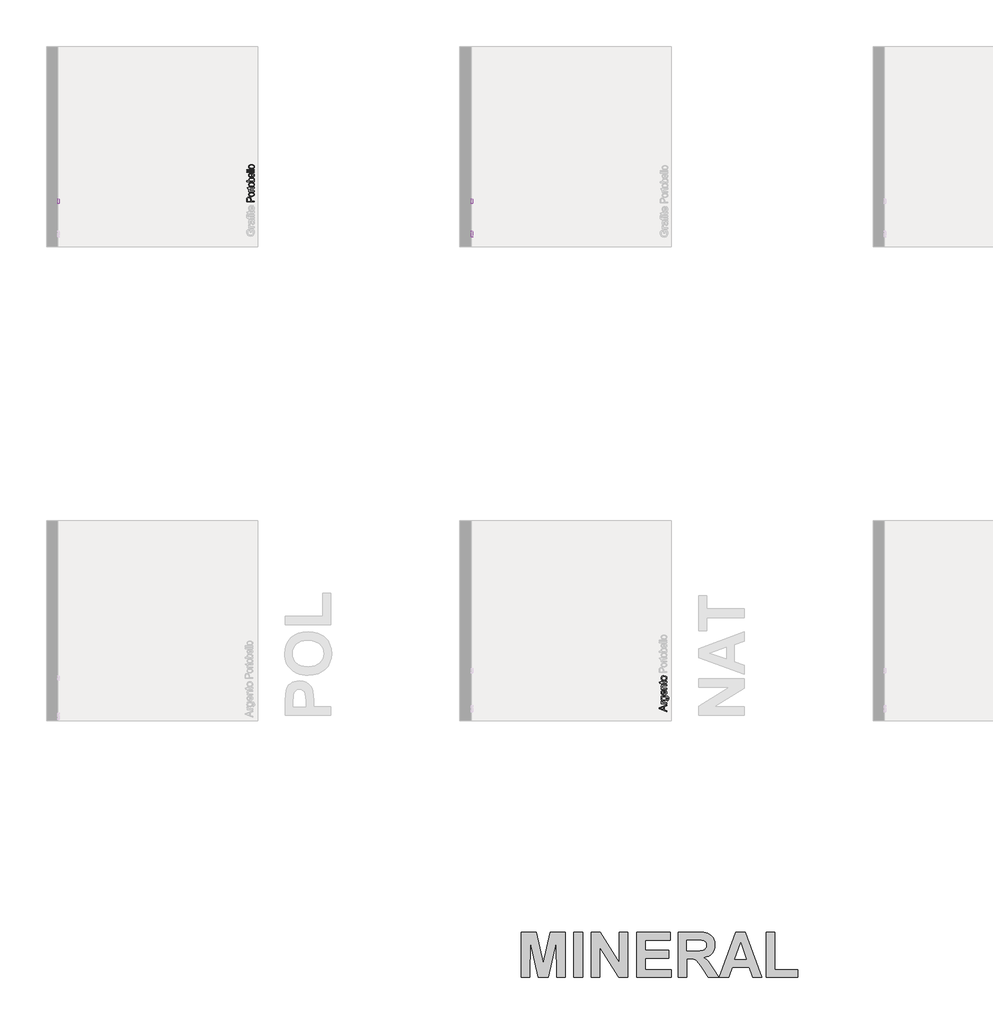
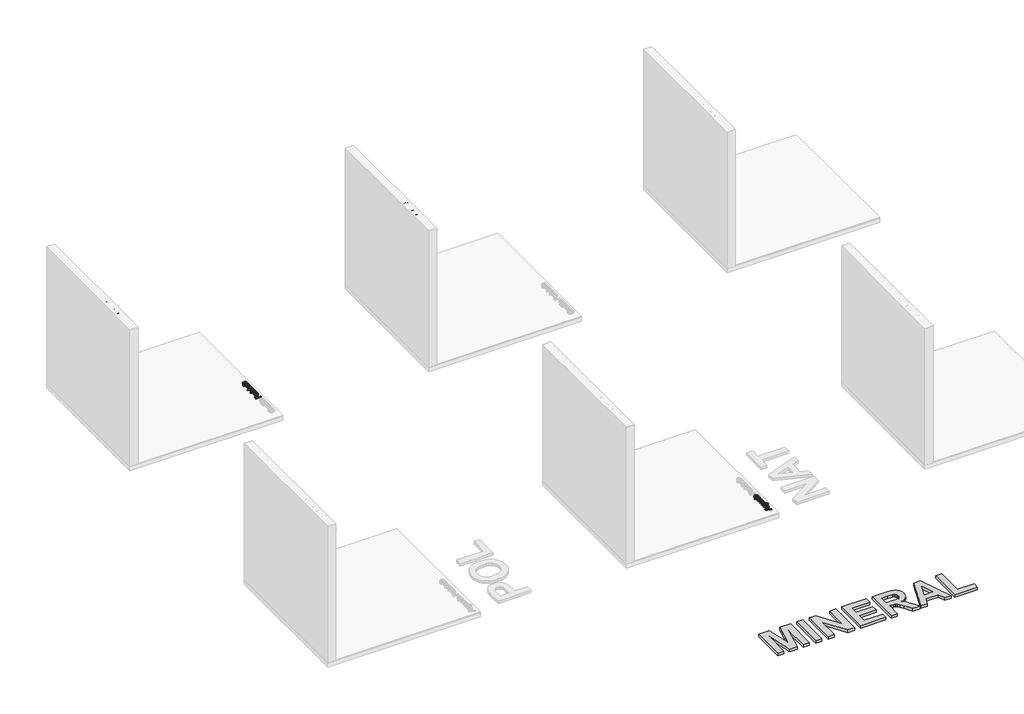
# One storey, part 3 of 14: 6 proxies.
"""IFC4 building model written with IfcOpenShell, lengths in millimetres."""

from ifc_helpers import new_model, si_unit, frame, origin, origin_with_axes, place, context, project, spatial, polyline, outline, extrude, element, save

model = new_model("IFC4")

# Units and contexts
model_context = context("Model", 3, world=origin())
ifc_project = project(units=[si_unit("LENGTHUNIT", "METRE", prefix="MILLI")], contexts=[model_context])

# Site, building, storey
site = spatial("IfcSite", under=ifc_project)
building = spatial("IfcBuilding", under=site)
storey = spatial("IfcBuildingStorey", under=building, Name="PORTOBELLO - SHOWROOM", Elevation=0.0)

# Proxies
placement = place(None, origin())
element("IfcBuildingElementProxy", 1, Name="10mm Arial", ObjectType="10mm Arial", at=placement, inside=storey, context=model_context, shape_type="SweptSolid", body=[
    extrude(outline(polyline([(192333.320762, -9099.9883911), (192232.8644518, -9059.8892536), (192232.8644518, -9049.1961503), (192333.320762, -9009.0970128), (192333.320762, -9022.3652901), (192301.9281651, -9033.8677338), (192301.9281651, -9075.2421955), (192333.320762, -9086.7201138), (192333.320762, -9099.9883911)]), holes=[polyline([(192289.3711263, -9070.6314078), (192289.3711263, -9038.453996), (192264.6739817, -9047.5038931), (192245.4214906, -9054.5427019), (192262.5157406, -9060.7966958), (192289.3711263, -9070.6314078)])]), frame((0.0, 0.0, 17.0), z_axis=(0.0, 0.0, 1.0), x_axis=(1.0, 0.0, 0.0)), (0.0, 0.0, 1.0), 20.0),
    extrude(outline(polyline([(192333.320762, -8997.2512125), (192259.5481592, -8997.2512125), (192259.5481592, -8986.2638036), (192270.4619917, -8986.2638036), (192260.4065505, -8978.4647053), (192257.9785294, -8970.6165561), (192261.8535531, -8958.0104664), (192273.1107421, -8962.2043211), (192270.5355681, -8971.033489), (192273.0126402, -8978.1336115), (192279.8797708, -8982.6585601), (192294.5459997, -8984.6941738), (192333.320762, -8984.6941738), (192333.320762, -8997.2512125)])), frame((0.0, 0.0, 17.0), z_axis=(0.0, 0.0, 1.0), x_axis=(1.0, 0.0, 0.0)), (0.0, 0.0, 1.0), 20.0),
    extrude(outline(polyline([(192339.5992814, -8953.3015769), (192341.1689112, -8940.7445381), (192347.7907871, -8936.6733107), (192350.5866903, -8924.4841539), (192347.4229051, -8911.6328095), (192338.5446863, -8905.5014429), (192323.9029829, -8904.6430516), (192330.9663172, -8913.4844822), (192333.320762, -8924.2634247), (192330.5800411, -8937.2098052), (192322.3578785, -8946.8636419), (192310.3036118, -8952.8693155), (192296.0665786, -8954.8712067), (192276.6056211, -8951.2782259), (192262.8345717, -8940.8794281), (192257.9785294, -8924.8765614), (192260.7253816, -8913.6745546), (192268.9659383, -8904.6430516), (192259.5481592, -8904.6430516), (192259.5481592, -8892.0860129), (192323.2407953, -8892.0860129), (192347.6313716, -8895.5195781), (192358.9743998, -8906.3966225), (192363.1437291, -8924.7294086), (192361.6752668, -8936.4127276), (192357.2698799, -8945.6128432), (192349.9153056, -8951.5142835), (192339.5992814, -8953.3015769)]), holes=[polyline([(192295.2081873, -8942.3141679), (192306.7259594, -8940.9744643), (192314.6446194, -8936.9553535), (192319.2339473, -8930.9128918), (192320.7637232, -8923.5031352), (192319.2431443, -8916.148561), (192314.6814076, -8910.0754424), (192306.8639152, -8906.0011493), (192295.5760693, -8904.6430516), (192284.6898279, -8906.0410032), (192276.8508757, -8910.234858), (192272.114395, -8916.3968814), (192270.5355681, -8923.699339), (192272.0898696, -8930.8699722), (192276.7527739, -8936.8817771), (192284.4752301, -8940.9560702), (192295.2081873, -8942.3141679)])]), frame((0.0, 0.0, 17.0), z_axis=(0.0, 0.0, 1.0), x_axis=(1.0, 0.0, 0.0)), (0.0, 0.0, 1.0), 20.0),
    extrude(outline(polyline([(192311.3459441, -8821.5998226), (192312.915574, -8809.2880385), (192322.1923316, -8813.7240822), (192329.1269072, -8820.8027449), (192333.4495207, -8830.3646111), (192334.8903918, -8842.2502652), (192332.4041227, -8856.9839391), (192324.9453152, -8868.320836), (192312.9983474, -8875.5497172), (192297.0475973, -8877.9593442), (192280.5603525, -8875.5251917), (192268.2301743, -8868.2227341), (192260.5414406, -8857.0391214), (192257.9785294, -8842.9615038), (192260.5353092, -8829.3222788), (192268.2056488, -8818.4237747), (192280.5113016, -8811.2776669), (192296.9740209, -8808.895631), (192300.3585352, -8808.9692074), (192300.3585352, -8865.4023055), (192309.7579202, -8863.228736), (192316.6679703, -8858.1795556), (192320.9170074, -8850.8924264), (192322.3333531, -8842.0050106), (192319.7091282, -8829.6932265), (192311.3459441, -8821.5998226)]), holes=[polyline([(192287.8014964, -8865.4023055), (192287.8014964, -8821.4526698), (192276.4216801, -8826.4803904), (192272.0070961, -8833.8012421), (192270.5355681, -8843.0105547), (192275.2321949, -8858.4738612), (192280.7228337, -8863.3391006), (192287.8014964, -8865.4023055)])]), frame((0.0, 0.0, 17.0), z_axis=(0.0, 0.0, 1.0), x_axis=(1.0, 0.0, 0.0)), (0.0, 0.0, 1.0), 20.0),
    extrude(outline(polyline([(192333.320762, -8796.3385922), (192259.5481592, -8796.3385922), (192259.5481592, -8783.7815535), (192269.8488551, -8783.7815535), (192260.9461108, -8774.1798334), (192257.9785294, -8761.0709716), (192260.3697623, -8749.2129087), (192266.6482817, -8741.1195048), (192275.8821198, -8737.3548457), (192288.0222256, -8736.6926581), (192333.320762, -8736.6926581), (192333.320762, -8749.2496969), (192289.7144828, -8749.2496969), (192278.6044466, -8750.6966994), (192272.7305974, -8755.8102591), (192270.5355681, -8764.4309605), (192275.4651869, -8778.0548571), (192282.6082289, -8782.3498794), (192294.1781177, -8783.7815535), (192333.320762, -8783.7815535), (192333.320762, -8796.3385922)])), frame((0.0, 0.0, 17.0), z_axis=(0.0, 0.0, 1.0), x_axis=(1.0, 0.0, 0.0)), (0.0, 0.0, 1.0), 20.0),
    extrude(outline(polyline([(192322.8483879, -8692.7430224), (192333.688644, -8691.1733926), (192334.8903918, -8700.5666462), (192332.8057272, -8711.0880712), (192327.3365482, -8716.336521), (192313.0872522, -8717.8570999), (192272.105198, -8717.8570999), (192272.105198, -8727.274879), (192259.5481592, -8727.274879), (192259.5481592, -8717.8570999), (192241.6200433, -8717.8570999), (192234.2378779, -8705.3000612), (192259.5481592, -8705.3000612), (192259.5481592, -8692.7430224), (192272.105198, -8692.7430224), (192272.105198, -8705.3000612), (192312.7193703, -8705.3000612), (192319.1940934, -8704.6378736), (192321.4872245, -8702.4918953), (192322.3333531, -8698.2122014), (192322.8483879, -8692.7430224)])), frame((0.0, 0.0, 17.0), z_axis=(0.0, 0.0, 1.0), x_axis=(1.0, 0.0, 0.0)), (0.0, 0.0, 1.0), 20.0),
    extrude(outline(polyline([(192296.4344606, -8683.3252433), (192278.6473661, -8680.6090479), (192266.1455097, -8672.4604617), (192260.0202744, -8662.3927578), (192257.9785294, -8650.3384911), (192260.4647985, -8637.1468559), (192267.923606, -8626.6101024), (192279.7663405, -8619.7031179), (192295.404391, -8617.4007898), (192317.7470909, -8621.4720172), (192330.3899688, -8633.3300802), (192334.8903918, -8650.3384911), (192332.4133197, -8663.6895418), (192324.9821034, -8674.2140326), (192312.8910485, -8681.0474406), (192296.4344606, -8683.3252433)]), holes=[polyline([(192296.4099351, -8670.7682046), (192307.7744231, -8669.3150707), (192315.8708927, -8664.955669), (192320.717738, -8658.3951068), (192322.3333531, -8650.3384911), (192320.7085409, -8642.3186636), (192315.8341045, -8635.7703641), (192307.630336, -8631.4109624), (192296.0175277, -8629.9578286), (192284.9841335, -8631.4201595), (192276.9980285, -8635.8071523), (192272.1511832, -8642.3646488), (192270.5355681, -8650.3384911), (192272.1450519, -8658.3951068), (192276.9735031, -8664.955669), (192285.0515785, -8669.3150707), (192296.4099351, -8670.7682046)])]), frame((0.0, 0.0, 17.0), z_axis=(0.0, 0.0, 1.0), x_axis=(1.0, 0.0, 0.0)), (0.0, 0.0, 1.0), 20.0),
])
element("IfcBuildingElementProxy", 2, Name="10mm Arial", ObjectType="10mm Arial", at=placement, inside=storey, context=model_context, shape_type="SweptSolid", body=[
    extrude(outline(polyline([(-2650.8558235, 2597.4669111), (-2650.8558235, 2610.0239499), (-2610.0454475, 2610.0239499), (-2610.0454475, 2572.4754609), (-2630.1931181, 2560.6296606), (-2651.4934856, 2556.6565351), (-2665.5803003, 2558.235362), (-2678.312083, 2562.9718427), (-2688.8886904, 2570.7004303), (-2696.5099791, 2581.2555778), (-2701.1177011, 2593.9168498), (-2702.6536084, 2607.9638107), (-2701.1238324, 2622.1119391), (-2696.5345045, 2635.2729175), (-2689.0756971, 2646.312443), (-2678.9374824, 2654.0962129), (-2666.5889101, 2658.7131319), (-2652.4990297, 2660.2521049), (-2632.8541312, 2656.6836496), (-2619.0830818, 2646.7508357), (-2611.49245, 2630.1348323), (-2623.0684701, 2626.8729452), (-2628.7951665, 2638.4857536), (-2638.5808276, 2645.1812059), (-2652.6952335, 2647.6950662), (-2668.7716766, 2644.9850021), (-2679.7100346, 2637.8726169), (-2686.172495, 2628.1973204), (-2690.0965696, 2608.4788455), (-2685.3754174, 2586.5898668), (-2671.6411562, 2573.4932677), (-2652.4990297, 2569.2135739), (-2635.3189405, 2572.4386727), (-2622.6024862, 2579.318066), (-2622.6024862, 2597.4669111), (-2650.8558235, 2597.4669111)])), frame((189692.8293498, 0.0, 0.0), z_axis=(1.0, 0.0, 0.0), x_axis=(0.0, 1.0, 0.0)), (0.0, 0.0, 1.0), 20.0),
    extrude(outline(polyline([(-2591.2098893, 2558.2261649), (-2591.2098893, 2631.9987677), (-2580.2224804, 2631.9987677), (-2580.2224804, 2621.0849352), (-2572.4233821, 2631.1403764), (-2564.5752329, 2633.5683975), (-2551.9691432, 2629.6933739), (-2556.1629979, 2618.4361848), (-2564.9921658, 2621.0113588), (-2572.0922883, 2618.5342867), (-2576.6172368, 2611.6671561), (-2578.6528506, 2597.0009272), (-2578.6528506, 2558.2261649), (-2591.2098893, 2558.2261649)])), frame((189692.8293498, 0.0, 0.0), z_axis=(1.0, 0.0, 0.0), x_axis=(0.0, 1.0, 0.0)), (0.0, 0.0, 1.0), 20.0),
    extrude(outline(polyline([(-2497.0320986, 2567.643944), (-2509.2089926, 2559.1336072), (-2522.6612109, 2556.6565351), (-2533.1550448, 2558.1464572), (-2540.8958951, 2562.6162234), (-2545.669164, 2569.4036462), (-2547.2602536, 2577.846538), (-2544.8567579, 2587.7793519), (-2538.5414503, 2594.989839), (-2529.7490707, 2599.1101173), (-2518.8842891, 2600.9985782), (-2497.105675, 2605.3150603), (-2497.0320986, 2608.1109635), (-2500.4901893, 2617.3815898), (-2514.3716033, 2621.0113588), (-2527.0757948, 2618.5956003), (-2533.133585, 2610.0239499), (-2545.6906238, 2611.5935797), (-2540.258233, 2623.8563129), (-2529.319875, 2631.0422745), (-2512.7529225, 2633.5683975), (-2497.5348706, 2631.3365801), (-2488.9386947, 2625.7325111), (-2485.0881964, 2617.2099115), (-2484.4750598, 2606.2225026), (-2484.4750598, 2590.5997805), (-2483.8373977, 2568.7843782), (-2481.3358001, 2558.2261649), (-2493.8928389, 2558.2261649), (-2497.0320986, 2567.643944)]), holes=[polyline([(-2497.0320986, 2592.7580215), (-2517.2901338, 2588.9075233), (-2528.0936017, 2586.8719096), (-2532.9864322, 2583.5609717), (-2534.7032149, 2578.7294548), (-2530.9630812, 2571.9359006), (-2519.9879351, 2569.2135739), (-2507.2837435, 2572.2179435), (-2499.0922377, 2579.4897443), (-2497.105675, 2589.2018289), (-2497.0320986, 2592.7580215)])]), frame((189692.8293498, 0.0, 0.0), z_axis=(1.0, 0.0, 0.0), x_axis=(0.0, 1.0, 0.0)), (0.0, 0.0, 1.0), 20.0),
    extrude(outline(polyline([(-2464.0698718, 2558.2261649), (-2464.0698718, 2619.4417289), (-2475.0572807, 2619.4417289), (-2475.0572807, 2631.9987677), (-2464.0698718, 2631.9987677), (-2464.0698718, 2639.429984), (-2462.7454966, 2649.9023581), (-2456.3198244, 2657.3826254), (-2443.6646838, 2660.2521049), (-2432.211291, 2658.8786788), (-2434.050701, 2647.106455), (-2441.2857136, 2647.6950662), (-2449.1951765, 2645.6104015), (-2451.512833, 2637.8358287), (-2451.512833, 2631.9987677), (-2437.3861644, 2631.9987677), (-2437.3861644, 2619.4417289), (-2451.512833, 2619.4417289), (-2451.512833, 2558.2261649), (-2464.0698718, 2558.2261649)])), frame((189692.8293498, 0.0, 0.0), z_axis=(1.0, 0.0, 0.0), x_axis=(0.0, 1.0, 0.0)), (0.0, 0.0, 1.0), 20.0),
    extrude(outline(polyline([(189712.8293498, -2413.8417167), (189712.8293498, -2426.3987555), (189692.8293498, -2426.3987555), (189692.8293498, -2413.8417167), (189712.8293498, -2413.8417167)])), frame((0.0, 0.0, 2646.1254363), z_axis=(0.0, 0.0, 1.0), x_axis=(1.0, 0.0, 0.0)), (0.0, 0.0, 1.0), 12.5570388),
    extrude(outline(polyline([(189712.8293498, -2413.8417167), (189712.8293498, -2426.3987555), (189692.8293498, -2426.3987555), (189692.8293498, -2413.8417167), (189712.8293498, -2413.8417167)])), frame((0.0, 0.0, 2558.2261649), z_axis=(0.0, 0.0, 1.0), x_axis=(1.0, 0.0, 0.0)), (0.0, 0.0, 1.0), 73.7726028),
    extrude(outline(polyline([(-2368.3224512, 2568.6985391), (-2366.7528213, 2557.8582829), (-2376.1460749, 2556.6565351), (-2386.6675, 2558.7411997), (-2391.9159498, 2564.2103787), (-2393.4365287, 2578.4596747), (-2393.4365287, 2619.4417289), (-2402.8543078, 2619.4417289), (-2402.8543078, 2631.9987677), (-2393.4365287, 2631.9987677), (-2393.4365287, 2649.9268836), (-2380.8794899, 2657.309049), (-2380.8794899, 2631.9987677), (-2368.3224512, 2631.9987677), (-2368.3224512, 2619.4417289), (-2380.8794899, 2619.4417289), (-2380.8794899, 2578.8275567), (-2380.2173024, 2572.3528336), (-2378.0713241, 2570.0597024), (-2373.7916302, 2569.2135739), (-2368.3224512, 2568.6985391)])), frame((189692.8293498, 0.0, 0.0), z_axis=(1.0, 0.0, 0.0), x_axis=(0.0, 1.0, 0.0)), (0.0, 0.0, 1.0), 20.0),
    extrude(outline(polyline([(-2304.1147803, 2580.2009828), (-2291.8029962, 2578.6313529), (-2296.2390399, 2569.3545953), (-2303.3177026, 2562.4200197), (-2312.8795688, 2558.0974062), (-2324.765223, 2556.6565351), (-2339.4988969, 2559.1428042), (-2350.8357937, 2566.6016117), (-2358.0646749, 2578.5485795), (-2360.4743019, 2594.4993297), (-2358.0401494, 2610.9865744), (-2350.7376918, 2623.3167526), (-2339.5540792, 2631.0054863), (-2325.4764615, 2633.5683975), (-2311.8372365, 2631.0116177), (-2300.9387324, 2623.3412781), (-2293.7926246, 2611.0356253), (-2291.4105887, 2594.5729061), (-2291.4841651, 2591.1883917), (-2347.9172632, 2591.1883917), (-2345.7436937, 2581.7890067), (-2340.6945133, 2574.8789566), (-2333.4073842, 2570.6299195), (-2324.5199683, 2569.2135739), (-2312.2081842, 2571.8377988), (-2304.1147803, 2580.2009828)]), holes=[polyline([(-2347.9172632, 2603.7454305), (-2303.9676275, 2603.7454305), (-2308.9953481, 2615.1252469), (-2316.3161998, 2619.5398308), (-2325.5255124, 2621.0113588), (-2340.9888189, 2616.314732), (-2345.8540583, 2610.8240932), (-2347.9172632, 2603.7454305)])]), frame((189692.8293498, 0.0, 0.0), z_axis=(1.0, 0.0, 0.0), x_axis=(0.0, 1.0, 0.0)), (0.0, 0.0, 1.0), 20.0),
])
element("IfcBuildingElementProxy", 3, Name="10mm Arial Narrow", ObjectType="10mm Arial Narrow", at=placement, inside=storey, context=model_context, shape_type="SweptSolid", body=[
    extrude(outline(polyline([(186767.2146145, -2221.8875051), (186666.4960107, -2221.8875051), (186666.4960107, -2190.5906204), (186668.3743315, -2174.2949189), (186677.8547747, -2162.8219328), (186694.8738835, -2158.5322544), (186706.949709, -2160.3185628), (186716.5761028, -2165.677488), (186722.8773612, -2175.4212768), (186724.9777807, -2190.362176), (186724.9777807, -2212.1405434), (186767.2146145, -2212.1405434), (186767.2146145, -2221.8875051)]), holes=[polyline([(186713.6063254, -2212.1405434), (186713.6063254, -2189.1691885), (186709.0755112, -2173.3049931), (186695.4069204, -2168.279216), (186685.241144, -2170.7540305), (186679.4411942, -2176.7316593), (186677.867466, -2189.3976329), (186677.867466, -2212.1405434), (186713.6063254, -2212.1405434)])]), frame((0.0, 0.0, 17.0), z_axis=(0.0, 0.0, 1.0), x_axis=(1.0, 0.0, 0.0)), (0.0, 0.0, 1.0), 20.0),
    extrude(outline(polyline([(186730.6635083, -2150.4097863), (186714.0727328, -2148.4553174), (186702.1206479, -2142.5919108), (186694.8960934, -2133.7333441), (186692.4879085, -2122.793395), (186694.8960934, -2111.9803594), (186702.1206479, -2103.0964099), (186713.8823624, -2097.1568552), (186729.9020269, -2095.1770036), (186747.0639135, -2097.121954), (186759.2063687, -2102.956805), (186766.4309232, -2111.8058532), (186768.8391081, -2122.793395), (186766.4245776, -2133.6540231), (186759.180986, -2142.528454), (186747.2225555, -2148.4394532), (186730.6635083, -2150.4097863)]), holes=[polyline([(186730.6381256, -2140.6628247), (186743.189877, -2139.3587878), (186752.0611351, -2135.4466772), (186757.3343936, -2129.6054805), (186759.0921465, -2122.5141851), (186757.3185294, -2115.7941119), (186751.9976783, -2110.1020386), (186743.110556, -2106.2184836), (186730.6381256, -2104.9239653), (186718.1244483, -2106.2280021), (186709.2658815, -2110.1401127), (186703.992623, -2115.9813095), (186702.2348701, -2123.0726048), (186704.0021415, -2129.8402706), (186709.3039556, -2135.5228253), (186718.1720408, -2139.3778248), (186730.6381256, -2140.6628247)])]), frame((0.0, 0.0, 17.0), z_axis=(0.0, 0.0, 1.0), x_axis=(1.0, 0.0, 0.0)), (0.0, 0.0, 1.0), 20.0),
    extrude(outline(polyline([(186759.0921465, -2023.6992848), (186768.8391081, -2022.0747912), (186768.8391081, -2029.4357779), (186766.7196516, -2037.7105422), (186760.9197018, -2042.0256033), (186746.2738766, -2043.1932081), (186703.8593638, -2043.1932081), (186703.8593638, -2051.3156762), (186700.6103765, -2051.3156762), (186705.4838574, -2052.9401698), (186703.8593638, -2060.5042181), (186706.181882, -2066.5833778), (186712.667165, -2070.4542415), (186728.0744716, -2072.4340931), (186767.2146145, -2072.4340931), (186767.2146145, -2082.1810547), (186694.1124021, -2082.1810547), (186694.1124021, -2072.4340931), (186703.8085983, -2072.4340931), (186694.7215872, -2066.1899458), (186692.4879085, -2059.7935022), (186694.1124021, -2051.3156762), (186694.1124021, -2043.1932081), (186677.867466, -2043.1932081), (186669.744998, -2033.4462465), (186694.1124021, -2033.4462465), (186694.1124021, -2023.6992848), (186703.8593638, -2023.6992848), (186703.8593638, -2033.4462465), (186748.5075553, -2033.4462465), (186756.5031098, -2032.5832342), (186759.0921465, -2027.9635805), (186759.0921465, -2023.6992848)])), frame((0.0, 0.0, 17.0), z_axis=(0.0, 0.0, 1.0), x_axis=(1.0, 0.0, 0.0)), (0.0, 0.0, 1.0), 20.0),
    extrude(outline(polyline([(186730.6635083, -2017.2013104), (186714.0727328, -2015.2468415), (186702.1206479, -2009.3834349), (186694.8960934, -2000.5248682), (186692.4879085, -1989.584919), (186694.8960934, -1978.7718834), (186702.1206479, -1969.887934), (186713.8823624, -1963.9483793), (186729.9020269, -1961.9685277), (186747.0639135, -1963.913478), (186759.2063687, -1969.7483291), (186766.4309232, -1978.5973773), (186768.8391081, -1989.584919), (186766.4245776, -2000.4455472), (186759.180986, -2009.3199781), (186747.2225555, -2015.2309773), (186730.6635083, -2017.2013104)]), holes=[polyline([(186730.6381256, -2007.4543487), (186743.189877, -2006.1503119), (186752.0611351, -2002.2382013), (186757.3343936, -1996.3970045), (186759.0921465, -1989.3057092), (186757.3185294, -1982.585636), (186751.9976783, -1976.8935627), (186743.110556, -1973.0100077), (186730.6381256, -1971.7154893), (186718.1244483, -1973.0195262), (186709.2658815, -1976.9316368), (186703.992623, -1982.7728335), (186702.2348701, -1989.8641289), (186704.0021415, -1996.6317946), (186709.3039556, -2002.3143494), (186718.1720408, -2006.1693489), (186730.6381256, -2007.4543487)])]), frame((0.0, 0.0, 17.0), z_axis=(0.0, 0.0, 1.0), x_axis=(1.0, 0.0, 0.0)), (0.0, 0.0, 1.0), 20.0),
    extrude(outline(polyline([(186767.2146145, -1939.2256171), (186767.2146145, -1948.9725788), (186666.4960107, -1948.9725788), (186666.4960107, -1939.2256171), (186701.9048949, -1939.2256171), (186694.8231181, -1931.8265564), (186692.4879085, -1922.6253231), (186696.6887474, -1909.7435964), (186709.4181778, -1900.4662149), (186730.1050886, -1896.9887833), (186746.5594321, -1898.9210423), (186758.7621712, -1904.7178193), (186766.3198739, -1913.0909416), (186768.8391081, -1922.7522366), (186766.2246887, -1932.0930749), (186758.4575786, -1939.2256171), (186767.2146145, -1939.2256171)]), holes=[polyline([(186730.1050886, -1939.2256171), (186747.3526419, -1937.1442347), (186756.084295, -1931.2554454), (186759.0921465, -1922.8030021), (186757.3026652, -1916.8602745), (186751.9342215, -1911.6219172), (186730.511212, -1906.735745), (186709.0755112, -1911.4442382), (186703.9450304, -1916.6889412), (186702.2348701, -1923.0060638), (186704.0243514, -1928.9836926), (186709.3927951, -1934.2759882), (186730.1050886, -1939.2256171)])]), frame((0.0, 0.0, 17.0), z_axis=(0.0, 0.0, 1.0), x_axis=(1.0, 0.0, 0.0)), (0.0, 0.0, 1.0), 20.0),
    extrude(outline(polyline([(186744.471704, -1845.0049878), (186746.0961976, -1835.2580262), (186755.9827642, -1838.9575565), (186763.1026151, -1844.7765434), (186767.4049848, -1852.4801967), (186768.8391081, -1861.8337263), (186766.4245776, -1873.4272803), (186759.180986, -1882.5714025), (186747.3748517, -1888.5109573), (186731.2726934, -1890.4908089), (186714.6057697, -1888.5014388), (186702.4252405, -1882.5333285), (186694.9722415, -1873.5192926), (186692.4879085, -1862.392146), (186694.8865748, -1851.7091968), (186702.0825739, -1842.9616795), (186713.8220785, -1837.1268284), (186729.8512615, -1835.181878), (186733.1002487, -1835.2580262), (186733.1002487, -1880.7438472), (186752.5434066, -1874.7408357), (186757.4549615, -1868.8107994), (186759.0921465, -1861.7068127), (186755.4370358, -1851.528345), (186744.471704, -1845.0049878)]), holes=[polyline([(186723.3532871, -1880.0838967), (186723.3532871, -1845.0049878), (186709.0882026, -1849.2692836), (186703.9482032, -1855.0946161), (186702.2348701, -1862.3159979), (186707.9459805, -1874.5250826), (186723.3532871, -1880.0838967)])]), frame((0.0, 0.0, 17.0), z_axis=(0.0, 0.0, 1.0), x_axis=(1.0, 0.0, 0.0)), (0.0, 0.0, 1.0), 20.0),
    extrude(outline(polyline([(186767.2146145, -1822.2620773), (186666.4960107, -1822.2620773), (186666.4960107, -1812.5151157), (186767.2146145, -1812.5151157), (186767.2146145, -1822.2620773)])), frame((0.0, 0.0, 17.0), z_axis=(0.0, 0.0, 1.0), x_axis=(1.0, 0.0, 0.0)), (0.0, 0.0, 1.0), 20.0),
    extrude(outline(polyline([(186767.2146145, -1796.2701796), (186666.4960107, -1796.2701796), (186666.4960107, -1786.5232179), (186767.2146145, -1786.5232179), (186767.2146145, -1796.2701796)])), frame((0.0, 0.0, 17.0), z_axis=(0.0, 0.0, 1.0), x_axis=(1.0, 0.0, 0.0)), (0.0, 0.0, 1.0), 20.0),
    extrude(outline(polyline([(186730.6635083, -1775.1517626), (186714.0727328, -1773.1972938), (186702.1206479, -1767.3338872), (186694.8960934, -1758.4753204), (186692.4879085, -1747.5353713), (186694.8960934, -1736.7223357), (186702.1206479, -1727.8383863), (186713.8823624, -1721.8988315), (186729.9020269, -1719.9189799), (186747.0639135, -1721.8639303), (186759.2063687, -1727.6987814), (186766.4309232, -1736.5478296), (186768.8391081, -1747.5353713), (186766.4245776, -1758.3959995), (186759.180986, -1767.2704304), (186747.2225555, -1773.1814296), (186730.6635083, -1775.1517626)]), holes=[polyline([(186730.6381256, -1765.404801), (186743.189877, -1764.1007641), (186752.0611351, -1760.1886535), (186757.3343936, -1754.3474568), (186759.0921465, -1747.2561615), (186757.3185294, -1740.5360883), (186751.9976783, -1734.844015), (186743.110556, -1730.9604599), (186730.6381256, -1729.6659416), (186718.1244483, -1730.9699785), (186709.2658815, -1734.882089), (186703.992623, -1740.7232858), (186702.2348701, -1747.8145811), (186704.0021415, -1754.5822469), (186709.3039556, -1760.2648017), (186718.1720408, -1764.1198012), (186730.6381256, -1765.404801)])]), frame((0.0, 0.0, 17.0), z_axis=(0.0, 0.0, 1.0), x_axis=(1.0, 0.0, 0.0)), (0.0, 0.0, 1.0), 20.0),
])
element("IfcBuildingElementProxy", 4, Name="10mm Arial Narrow", ObjectType="10mm Arial Narrow", at=placement, inside=storey, context=model_context, shape_type="SweptSolid", body=[
    extrude(outline(polyline([(-2245.8096597, 2558.2261649), (-2245.8096597, 2658.9447687), (-2214.5127751, 2658.9447687), (-2198.2170735, 2657.066448), (-2186.7440874, 2647.5860048), (-2182.454409, 2630.566896), (-2184.2407174, 2618.4910704), (-2189.5996426, 2608.8646767), (-2199.3434314, 2602.5634182), (-2214.2843306, 2600.4629988), (-2236.0626981, 2600.4629988), (-2236.0626981, 2558.2261649), (-2245.8096597, 2558.2261649)]), holes=[polyline([(-2236.0626981, 2611.834454), (-2213.0913431, 2611.834454), (-2197.2271477, 2616.3652682), (-2192.2013706, 2630.033859), (-2194.6761851, 2640.1996354), (-2200.653814, 2645.9995852), (-2213.3197876, 2647.5733134), (-2236.0626981, 2647.5733134), (-2236.0626981, 2611.834454)])]), frame((189692.8293498, 0.0, 0.0), z_axis=(1.0, 0.0, 0.0), x_axis=(0.0, 1.0, 0.0)), (0.0, 0.0, 1.0), 20.0),
    extrude(outline(polyline([(-2174.3319409, 2594.7772711), (-2172.3774721, 2611.3680467), (-2166.5140655, 2623.3201315), (-2157.6554987, 2630.5446861), (-2146.7155496, 2632.9528709), (-2135.902514, 2630.5446861), (-2127.0185646, 2623.3201315), (-2121.0790098, 2611.558417), (-2119.0991582, 2595.5387525), (-2121.0441086, 2578.3768659), (-2126.8789597, 2566.2344108), (-2135.7280079, 2559.0098562), (-2146.7155496, 2556.6016713), (-2157.5761778, 2559.0162019), (-2166.4506087, 2566.2597935), (-2172.3616079, 2578.218224), (-2174.3319409, 2594.7772711)]), holes=[polyline([(-2164.5849793, 2594.8026538), (-2163.2809424, 2582.2509024), (-2159.3688318, 2573.3796444), (-2153.5276351, 2568.1063858), (-2146.4363398, 2566.348633), (-2139.7162666, 2568.12225), (-2134.0241933, 2573.4431012), (-2130.1406382, 2582.3302234), (-2128.8461199, 2594.8026538), (-2130.1501568, 2607.3163312), (-2134.0622673, 2616.1748979), (-2139.9034641, 2621.4481564), (-2146.9947594, 2623.2059093), (-2153.7624252, 2621.4386379), (-2159.44498, 2616.1368238), (-2163.2999795, 2607.2687386), (-2164.5849793, 2594.8026538)])]), frame((189692.8293498, 0.0, 0.0), z_axis=(1.0, 0.0, 0.0), x_axis=(0.0, 1.0, 0.0)), (0.0, 0.0, 1.0), 20.0),
    extrude(outline(polyline([(-2047.6214394, 2566.348633), (-2045.9969458, 2556.6016713), (-2053.3579325, 2556.6016713), (-2061.6326968, 2558.7211278), (-2065.947758, 2564.5210777), (-2067.1153628, 2579.1669029), (-2067.1153628, 2621.5814157), (-2075.2378308, 2621.5814157), (-2075.2378308, 2624.8304029), (-2076.8623244, 2619.9569221), (-2084.4263728, 2621.5814157), (-2090.5055325, 2619.2588975), (-2094.3763961, 2612.7736144), (-2096.3562477, 2597.3663078), (-2096.3562477, 2558.2261649), (-2106.1032094, 2558.2261649), (-2106.1032094, 2631.3283773), (-2096.3562477, 2631.3283773), (-2096.3562477, 2621.6321811), (-2090.1121004, 2630.7191922), (-2083.7156568, 2632.9528709), (-2075.2378308, 2631.3283773), (-2067.1153628, 2631.3283773), (-2067.1153628, 2647.5733134), (-2057.3684011, 2655.6957815), (-2057.3684011, 2631.3283773), (-2047.6214394, 2631.3283773), (-2047.6214394, 2621.5814157), (-2057.3684011, 2621.5814157), (-2057.3684011, 2576.9332242), (-2056.5053889, 2568.9376697), (-2051.8857352, 2566.348633), (-2047.6214394, 2566.348633)])), frame((189692.8293498, 0.0, 0.0), z_axis=(1.0, 0.0, 0.0), x_axis=(0.0, 1.0, 0.0)), (0.0, 0.0, 1.0), 20.0),
    extrude(outline(polyline([(-2041.123465, 2594.7772711), (-2039.1689961, 2611.3680467), (-2033.3055895, 2623.3201315), (-2024.4470228, 2630.5446861), (-2013.5070737, 2632.9528709), (-2002.6940381, 2630.5446861), (-1993.8100887, 2623.3201315), (-1987.8705339, 2611.558417), (-1985.8906823, 2595.5387525), (-1987.8356327, 2578.3768659), (-1993.6704837, 2566.2344108), (-2002.5195319, 2559.0098562), (-2013.5070737, 2556.6016713), (-2024.3677018, 2559.0162019), (-2033.2421327, 2566.2597935), (-2039.1531319, 2578.218224), (-2041.123465, 2594.7772711)]), holes=[polyline([(-2031.3765034, 2594.8026538), (-2030.0724665, 2582.2509024), (-2026.1603559, 2573.3796444), (-2020.3191592, 2568.1063858), (-2013.2278638, 2566.348633), (-2006.5077907, 2568.12225), (-2000.8157173, 2573.4431012), (-1996.9321623, 2582.3302234), (-1995.637644, 2594.8026538), (-1996.9416808, 2607.3163312), (-2000.8537914, 2616.1748979), (-2006.6949882, 2621.4481564), (-2013.7862835, 2623.2059093), (-2020.5539493, 2621.4386379), (-2026.2365041, 2616.1368238), (-2030.0915035, 2607.2687386), (-2031.3765034, 2594.8026538)])]), frame((189692.8293498, 0.0, 0.0), z_axis=(1.0, 0.0, 0.0), x_axis=(0.0, 1.0, 0.0)), (0.0, 0.0, 1.0), 20.0),
    extrude(outline(polyline([(-1963.1477718, 2558.2261649), (-1972.8947334, 2558.2261649), (-1972.8947334, 2658.9447687), (-1963.1477718, 2658.9447687), (-1963.1477718, 2623.5358846), (-1955.7487111, 2630.6176614), (-1946.5474777, 2632.9528709), (-1933.6657511, 2628.752032), (-1924.3883696, 2616.0226016), (-1920.910938, 2595.3356908), (-1922.843197, 2578.8813473), (-1928.639974, 2566.6786082), (-1937.0130963, 2559.1209056), (-1946.6743913, 2556.6016713), (-1956.0152295, 2559.2160907), (-1963.1477718, 2566.9832008), (-1963.1477718, 2558.2261649)]), holes=[polyline([(-1963.1477718, 2595.3356908), (-1961.0663893, 2578.0881376), (-1955.1776, 2569.3564844), (-1946.7251567, 2566.348633), (-1940.7824291, 2568.1381142), (-1935.5440718, 2573.5065579), (-1930.6578996, 2594.9295674), (-1935.3663928, 2616.3652682), (-1940.6110958, 2621.495749), (-1946.9282184, 2623.2059093), (-1952.9058472, 2621.4164281), (-1958.1981428, 2616.0479843), (-1963.1477718, 2595.3356908)])]), frame((189692.8293498, 0.0, 0.0), z_axis=(1.0, 0.0, 0.0), x_axis=(0.0, 1.0, 0.0)), (0.0, 0.0, 1.0), 20.0),
    extrude(outline(polyline([(-1868.9271425, 2580.9690755), (-1859.1801808, 2579.3445819), (-1862.8797112, 2569.4580153), (-1868.6986981, 2562.3381644), (-1876.4023513, 2558.0357946), (-1885.7558809, 2556.6016713), (-1897.3494349, 2559.0162019), (-1906.4935572, 2566.2597935), (-1912.4331119, 2578.0659277), (-1914.4129635, 2594.168086), (-1912.4235934, 2610.8350097), (-1906.4554831, 2623.0155389), (-1897.4414473, 2630.4685379), (-1886.3143006, 2632.9528709), (-1875.6313514, 2630.5542046), (-1866.8838341, 2623.3582056), (-1861.048983, 2611.618701), (-1859.1040327, 2595.5895179), (-1859.1801808, 2592.3405307), (-1904.6660019, 2592.3405307), (-1898.6629903, 2572.8973728), (-1892.7329541, 2567.9858179), (-1885.6289674, 2566.348633), (-1875.4504996, 2570.0037436), (-1868.9271425, 2580.9690755)]), holes=[polyline([(-1904.0060513, 2602.0874924), (-1868.9271425, 2602.0874924), (-1873.1914382, 2616.3525769), (-1879.0167707, 2621.4925762), (-1886.2381525, 2623.2059093), (-1898.4472373, 2617.4947989), (-1904.0060513, 2602.0874924)])]), frame((189692.8293498, 0.0, 0.0), z_axis=(1.0, 0.0, 0.0), x_axis=(0.0, 1.0, 0.0)), (0.0, 0.0, 1.0), 20.0),
    extrude(outline(polyline([(189712.8293498, -1836.4372703), (189712.8293498, -1846.1842319), (189692.8293498, -1846.1842319), (189692.8293498, -1836.4372703), (189712.8293498, -1836.4372703)])), frame((0.0, 0.0, 2558.2261649), z_axis=(0.0, 0.0, 1.0), x_axis=(1.0, 0.0, 0.0)), (0.0, 0.0, 1.0), 100.7186038),
    extrude(outline(polyline([(189712.8293498, -1810.4453725), (189712.8293498, -1820.1923342), (189692.8293498, -1820.1923342), (189692.8293498, -1810.4453725), (189712.8293498, -1810.4453725)])), frame((0.0, 0.0, 2558.2261649), z_axis=(0.0, 0.0, 1.0), x_axis=(1.0, 0.0, 0.0)), (0.0, 0.0, 1.0), 100.7186038),
    extrude(outline(polyline([(-1799.0739173, 2594.7772711), (-1797.1194484, 2611.3680467), (-1791.2560418, 2623.3201315), (-1782.3974751, 2630.5446861), (-1771.4575259, 2632.9528709), (-1760.6444903, 2630.5446861), (-1751.7605409, 2623.3201315), (-1745.8209862, 2611.558417), (-1743.8411346, 2595.5387525), (-1745.7860849, 2578.3768659), (-1751.620936, 2566.2344108), (-1760.4699842, 2559.0098562), (-1771.4575259, 2556.6016713), (-1782.3181541, 2559.0162019), (-1791.192585, 2566.2597935), (-1797.1035842, 2578.218224), (-1799.0739173, 2594.7772711)]), holes=[polyline([(-1789.3269556, 2594.8026538), (-1788.0229188, 2582.2509024), (-1784.1108082, 2573.3796444), (-1778.2696114, 2568.1063858), (-1771.1783161, 2566.348633), (-1764.4582429, 2568.12225), (-1758.7661696, 2573.4431012), (-1754.8826146, 2582.3302234), (-1753.5880962, 2594.8026538), (-1754.8921331, 2607.3163312), (-1758.8042437, 2616.1748979), (-1764.6454404, 2621.4481564), (-1771.7367358, 2623.2059093), (-1778.5044015, 2621.4386379), (-1784.1869563, 2616.1368238), (-1788.0419558, 2607.2687386), (-1789.3269556, 2594.8026538)])]), frame((189692.8293498, 0.0, 0.0), z_axis=(1.0, 0.0, 0.0), x_axis=(0.0, 1.0, 0.0)), (0.0, 0.0, 1.0), 20.0),
])
element("IfcBuildingElementProxy", 5, Name="10mm Arial Narrow", ObjectType="10mm Arial Narrow", at=placement, inside=storey, context=model_context, shape_type="SweptSolid", body=[
    extrude(outline(polyline([(-2245.8096597, 2558.2261649), (-2245.8096597, 2658.9447687), (-2214.5127751, 2658.9447687), (-2198.2170735, 2657.066448), (-2186.7440874, 2647.5860048), (-2182.454409, 2630.566896), (-2184.2407174, 2618.4910704), (-2189.5996426, 2608.8646767), (-2199.3434314, 2602.5634182), (-2214.2843306, 2600.4629988), (-2236.0626981, 2600.4629988), (-2236.0626981, 2558.2261649), (-2245.8096597, 2558.2261649)]), holes=[polyline([(-2236.0626981, 2611.834454), (-2213.0913431, 2611.834454), (-2197.2271477, 2616.3652682), (-2192.2013706, 2630.033859), (-2194.6761851, 2640.1996354), (-2200.653814, 2645.9995852), (-2213.3197876, 2647.5733134), (-2236.0626981, 2647.5733134), (-2236.0626981, 2611.834454)])]), frame((184113.9473279, 0.0, 0.0), z_axis=(1.0, 0.0, 0.0), x_axis=(0.0, 1.0, 0.0)), (0.0, 0.0, 1.0), 20.0),
    extrude(outline(polyline([(-2174.3319409, 2594.7772711), (-2172.3774721, 2611.3680467), (-2166.5140655, 2623.3201315), (-2157.6554987, 2630.5446861), (-2146.7155496, 2632.9528709), (-2135.902514, 2630.5446861), (-2127.0185646, 2623.3201315), (-2121.0790098, 2611.558417), (-2119.0991582, 2595.5387525), (-2121.0441086, 2578.3768659), (-2126.8789597, 2566.2344108), (-2135.7280079, 2559.0098562), (-2146.7155496, 2556.6016713), (-2157.5761778, 2559.0162019), (-2166.4506087, 2566.2597935), (-2172.3616079, 2578.218224), (-2174.3319409, 2594.7772711)]), holes=[polyline([(-2164.5849793, 2594.8026538), (-2163.2809424, 2582.2509024), (-2159.3688318, 2573.3796444), (-2153.5276351, 2568.1063858), (-2146.4363398, 2566.348633), (-2139.7162666, 2568.12225), (-2134.0241933, 2573.4431012), (-2130.1406382, 2582.3302234), (-2128.8461199, 2594.8026538), (-2130.1501568, 2607.3163312), (-2134.0622673, 2616.1748979), (-2139.9034641, 2621.4481564), (-2146.9947594, 2623.2059093), (-2153.7624252, 2621.4386379), (-2159.44498, 2616.1368238), (-2163.2999795, 2607.2687386), (-2164.5849793, 2594.8026538)])]), frame((184113.9473279, 0.0, 0.0), z_axis=(1.0, 0.0, 0.0), x_axis=(0.0, 1.0, 0.0)), (0.0, 0.0, 1.0), 20.0),
    extrude(outline(polyline([(-2047.6214394, 2566.348633), (-2045.9969458, 2556.6016713), (-2053.3579325, 2556.6016713), (-2061.6326968, 2558.7211278), (-2065.947758, 2564.5210777), (-2067.1153628, 2579.1669029), (-2067.1153628, 2621.5814157), (-2075.2378308, 2621.5814157), (-2075.2378308, 2624.8304029), (-2076.8623244, 2619.9569221), (-2084.4263728, 2621.5814157), (-2090.5055325, 2619.2588975), (-2094.3763961, 2612.7736144), (-2096.3562477, 2597.3663078), (-2096.3562477, 2558.2261649), (-2106.1032094, 2558.2261649), (-2106.1032094, 2631.3283773), (-2096.3562477, 2631.3283773), (-2096.3562477, 2621.6321811), (-2090.1121004, 2630.7191922), (-2083.7156568, 2632.9528709), (-2075.2378308, 2631.3283773), (-2067.1153628, 2631.3283773), (-2067.1153628, 2647.5733134), (-2057.3684011, 2655.6957815), (-2057.3684011, 2631.3283773), (-2047.6214394, 2631.3283773), (-2047.6214394, 2621.5814157), (-2057.3684011, 2621.5814157), (-2057.3684011, 2576.9332242), (-2056.5053889, 2568.9376697), (-2051.8857352, 2566.348633), (-2047.6214394, 2566.348633)])), frame((184113.9473279, 0.0, 0.0), z_axis=(1.0, 0.0, 0.0), x_axis=(0.0, 1.0, 0.0)), (0.0, 0.0, 1.0), 20.0),
    extrude(outline(polyline([(-2041.123465, 2594.7772711), (-2039.1689961, 2611.3680467), (-2033.3055895, 2623.3201315), (-2024.4470228, 2630.5446861), (-2013.5070737, 2632.9528709), (-2002.6940381, 2630.5446861), (-1993.8100887, 2623.3201315), (-1987.8705339, 2611.558417), (-1985.8906823, 2595.5387525), (-1987.8356327, 2578.3768659), (-1993.6704837, 2566.2344108), (-2002.5195319, 2559.0098562), (-2013.5070737, 2556.6016713), (-2024.3677018, 2559.0162019), (-2033.2421327, 2566.2597935), (-2039.1531319, 2578.218224), (-2041.123465, 2594.7772711)]), holes=[polyline([(-2031.3765034, 2594.8026538), (-2030.0724665, 2582.2509024), (-2026.1603559, 2573.3796444), (-2020.3191592, 2568.1063858), (-2013.2278638, 2566.348633), (-2006.5077907, 2568.12225), (-2000.8157173, 2573.4431012), (-1996.9321623, 2582.3302234), (-1995.637644, 2594.8026538), (-1996.9416808, 2607.3163312), (-2000.8537914, 2616.1748979), (-2006.6949882, 2621.4481564), (-2013.7862835, 2623.2059093), (-2020.5539493, 2621.4386379), (-2026.2365041, 2616.1368238), (-2030.0915035, 2607.2687386), (-2031.3765034, 2594.8026538)])]), frame((184113.9473279, 0.0, 0.0), z_axis=(1.0, 0.0, 0.0), x_axis=(0.0, 1.0, 0.0)), (0.0, 0.0, 1.0), 20.0),
    extrude(outline(polyline([(-1963.1477718, 2558.2261649), (-1972.8947334, 2558.2261649), (-1972.8947334, 2658.9447687), (-1963.1477718, 2658.9447687), (-1963.1477718, 2623.5358846), (-1955.7487111, 2630.6176614), (-1946.5474777, 2632.9528709), (-1933.6657511, 2628.752032), (-1924.3883696, 2616.0226016), (-1920.910938, 2595.3356908), (-1922.843197, 2578.8813473), (-1928.639974, 2566.6786082), (-1937.0130963, 2559.1209056), (-1946.6743913, 2556.6016713), (-1956.0152295, 2559.2160907), (-1963.1477718, 2566.9832008), (-1963.1477718, 2558.2261649)]), holes=[polyline([(-1963.1477718, 2595.3356908), (-1961.0663893, 2578.0881376), (-1955.1776, 2569.3564844), (-1946.7251567, 2566.348633), (-1940.7824291, 2568.1381142), (-1935.5440718, 2573.5065579), (-1930.6578996, 2594.9295674), (-1935.3663928, 2616.3652682), (-1940.6110958, 2621.495749), (-1946.9282184, 2623.2059093), (-1952.9058472, 2621.4164281), (-1958.1981428, 2616.0479843), (-1963.1477718, 2595.3356908)])]), frame((184113.9473279, 0.0, 0.0), z_axis=(1.0, 0.0, 0.0), x_axis=(0.0, 1.0, 0.0)), (0.0, 0.0, 1.0), 20.0),
    extrude(outline(polyline([(-1868.9271425, 2580.9690755), (-1859.1801808, 2579.3445819), (-1862.8797112, 2569.4580153), (-1868.6986981, 2562.3381644), (-1876.4023513, 2558.0357946), (-1885.7558809, 2556.6016713), (-1897.3494349, 2559.0162019), (-1906.4935572, 2566.2597935), (-1912.4331119, 2578.0659277), (-1914.4129635, 2594.168086), (-1912.4235934, 2610.8350097), (-1906.4554831, 2623.0155389), (-1897.4414473, 2630.4685379), (-1886.3143006, 2632.9528709), (-1875.6313514, 2630.5542046), (-1866.8838341, 2623.3582056), (-1861.048983, 2611.618701), (-1859.1040327, 2595.5895179), (-1859.1801808, 2592.3405307), (-1904.6660019, 2592.3405307), (-1898.6629903, 2572.8973728), (-1892.7329541, 2567.9858179), (-1885.6289674, 2566.348633), (-1875.4504996, 2570.0037436), (-1868.9271425, 2580.9690755)]), holes=[polyline([(-1904.0060513, 2602.0874924), (-1868.9271425, 2602.0874924), (-1873.1914382, 2616.3525769), (-1879.0167707, 2621.4925762), (-1886.2381525, 2623.2059093), (-1898.4472373, 2617.4947989), (-1904.0060513, 2602.0874924)])]), frame((184113.9473279, 0.0, 0.0), z_axis=(1.0, 0.0, 0.0), x_axis=(0.0, 1.0, 0.0)), (0.0, 0.0, 1.0), 20.0),
    extrude(outline(polyline([(184133.9473279, -1836.4372703), (184133.9473279, -1846.1842319), (184113.9473279, -1846.1842319), (184113.9473279, -1836.4372703), (184133.9473279, -1836.4372703)])), frame((0.0, 0.0, 2558.2261649), z_axis=(0.0, 0.0, 1.0), x_axis=(1.0, 0.0, 0.0)), (0.0, 0.0, 1.0), 100.7186038),
    extrude(outline(polyline([(184133.9473279, -1810.4453725), (184133.9473279, -1820.1923342), (184113.9473279, -1820.1923342), (184113.9473279, -1810.4453725), (184133.9473279, -1810.4453725)])), frame((0.0, 0.0, 2558.2261649), z_axis=(0.0, 0.0, 1.0), x_axis=(1.0, 0.0, 0.0)), (0.0, 0.0, 1.0), 100.7186038),
    extrude(outline(polyline([(-1799.0739173, 2594.7772711), (-1797.1194484, 2611.3680467), (-1791.2560418, 2623.3201315), (-1782.3974751, 2630.5446861), (-1771.4575259, 2632.9528709), (-1760.6444903, 2630.5446861), (-1751.7605409, 2623.3201315), (-1745.8209862, 2611.558417), (-1743.8411346, 2595.5387525), (-1745.7860849, 2578.3768659), (-1751.620936, 2566.2344108), (-1760.4699842, 2559.0098562), (-1771.4575259, 2556.6016713), (-1782.3181541, 2559.0162019), (-1791.192585, 2566.2597935), (-1797.1035842, 2578.218224), (-1799.0739173, 2594.7772711)]), holes=[polyline([(-1789.3269556, 2594.8026538), (-1788.0229188, 2582.2509024), (-1784.1108082, 2573.3796444), (-1778.2696114, 2568.1063858), (-1771.1783161, 2566.348633), (-1764.4582429, 2568.12225), (-1758.7661696, 2573.4431012), (-1754.8826146, 2582.3302234), (-1753.5880962, 2594.8026538), (-1754.8921331, 2607.3163312), (-1758.8042437, 2616.1748979), (-1764.6454404, 2621.4481564), (-1771.7367358, 2623.2059093), (-1778.5044015, 2621.4386379), (-1784.1869563, 2616.1368238), (-1788.0419558, 2607.2687386), (-1789.3269556, 2594.8026538)])]), frame((184113.9473279, 0.0, 0.0), z_axis=(1.0, 0.0, 0.0), x_axis=(0.0, 1.0, 0.0)), (0.0, 0.0, 1.0), 20.0),
])
element("IfcBuildingElementProxy", 6, Name="600mm Arial", ObjectType="600mm Arial", at=placement, inside=storey, context=model_context, shape_type="SweptSolid", body=[
    extrude(outline(polyline([(190370.9001352, -12688.7002712), (190370.9001352, -12076.5446312), (190570.7009343, -12076.5446312), (190667.261199, -12494.0614988), (190763.8214636, -12076.5446312), (190963.6222628, -12076.5446312), (190963.6222628, -12688.7002712), (190847.0211885, -12688.7002712), (190842.1628104, -12206.8098939), (190735.5821409, -12688.7002712), (190599.0920813, -12688.7002712), (190492.3595876, -12206.8098939), (190487.5012095, -12688.7002712), (190370.9001352, -12688.7002712)])), origin_with_axes(), (0.0, 0.0, 1.0), 50.0),
    extrude(outline(polyline([(191080.2233371, -12688.7002712), (191080.2233371, -12076.5446312), (191196.8244113, -12076.5446312), (191196.8244113, -12688.7002712), (191080.2233371, -12688.7002712)])), origin_with_axes(), (0.0, 0.0, 1.0), 50.0),
    extrude(outline(polyline([(191313.4254856, -12688.7002712), (191313.4254856, -12076.5446312), (191435.6440596, -12076.5446312), (191692.378977, -12488.5958234), (191692.378977, -12076.5446312), (191808.9800513, -12076.5446312), (191808.9800513, -12688.7002712), (191682.9658695, -12688.7002712), (191430.0265599, -12282.7220516), (191430.0265599, -12688.7002712), (191313.4254856, -12688.7002712)])), origin_with_axes(), (0.0, 0.0, 1.0), 50.0),
    extrude(outline(polyline([(191925.5811256, -12688.7002712), (191925.5811256, -12076.5446312), (192382.2686665, -12076.5446312), (192382.2686665, -12183.4289493), (192042.1821999, -12183.4289493), (192042.1821999, -12319.463536), (192362.8351542, -12319.463536), (192362.8351542, -12426.3478541), (192042.1821999, -12426.3478541), (192042.1821999, -12581.8159531), (192391.9854227, -12581.8159531), (192391.9854227, -12688.7002712), (191925.5811256, -12688.7002712)])), origin_with_axes(), (0.0, 0.0, 1.0), 50.0),
    extrude(outline(polyline([(192489.1529846, -12688.7002712), (192489.1529846, -12076.5446312), (192746.6470237, -12076.5446312), (192830.529958, -12080.6818438), (192862.5079544, -12085.8533596), (192887.843637, -12093.0934816), (192908.7574365, -12102.9810401), (192927.4697834, -12116.0948654), (192943.9806777, -12132.4349574), (192958.2901194, -12152.001316), (192969.8477454, -12173.9494186), (192978.1031926, -12197.4347424), (192983.0564609, -12222.4572874), (192984.7075503, -12249.0170536), (192982.3210619, -12282.1242434), (192975.1615965, -12312.2139249), (192963.2291542, -12339.2860982), (192946.523735, -12363.3407631), (192925.0643169, -12383.7990897), (192898.869878, -12400.0822475), (192867.9404182, -12412.1902366), (192832.2759376, -12420.1230571), (192866.0948039, -12444.4908598), (192893.4611367, -12471.1360271), (192921.7763716, -12509.7373593), (192958.4419437, -12569.9736565), (193033.2913313, -12688.7002712), (192897.1049203, -12688.7002712), (192808.4395201, -12548.8700766), (192765.6060851, -12495.1812031), (192738.8280714, -12465.8980882), (192719.5084273, -12451.4937563), (192699.0501008, -12442.4412315), (192671.8925263, -12437.6587656), (192632.4751384, -12436.0646103), (192605.7540589, -12436.0646103), (192605.7540589, -12688.7002712), (192489.1529846, -12688.7002712)]), holes=[polyline([(192605.7540589, -12329.1802922), (192701.8588506, -12329.1802922), (192777.7140742, -12327.4153345), (192818.535837, -12322.1204615), (192839.2978122, -12312.5175735), (192854.9736727, -12297.828571), (192864.8232752, -12278.4519928), (192868.106476, -12254.7863776), (192863.779483, -12228.5777051), (192850.7985041, -12207.9485763), (192829.9226607, -12193.39242), (192801.9110745, -12185.4026654), (192707.1727016, -12183.4289493), (192605.7540589, -12183.4289493), (192605.7540589, -12329.1802922)])]), origin_with_axes(), (0.0, 0.0, 1.0), 50.0),
    extrude(outline(polyline([(193616.2967027, -12688.7002712), (193493.7744801, -12688.7002712), (193445.7979964, -12552.6656845), (193214.5695639, -12552.6656845), (193167.2003775, -12688.7002712), (193043.0080875, -12688.7002712), (193266.4934798, -12076.5446312), (193390.6857699, -12076.5446312), (193616.2967027, -12688.7002712)]), holes=[polyline([(193408.4492148, -12445.7813664), (193329.6523951, -12222.2959741), (193251.9183455, -12445.7813664), (193408.4492148, -12445.7813664)])]), origin_with_axes(), (0.0, 0.0, 1.0), 50.0),
    extrude(outline(polyline([(193674.5972398, -12688.7002712), (193674.5972398, -12076.5446312), (193791.1983141, -12076.5446312), (193791.1983141, -12581.8159531), (194102.1345122, -12581.8159531), (194102.1345122, -12688.7002712), (193674.5972398, -12688.7002712)])), origin_with_axes(), (0.0, 0.0, 1.0), 50.0),
])

save(model, "model.ifc")
